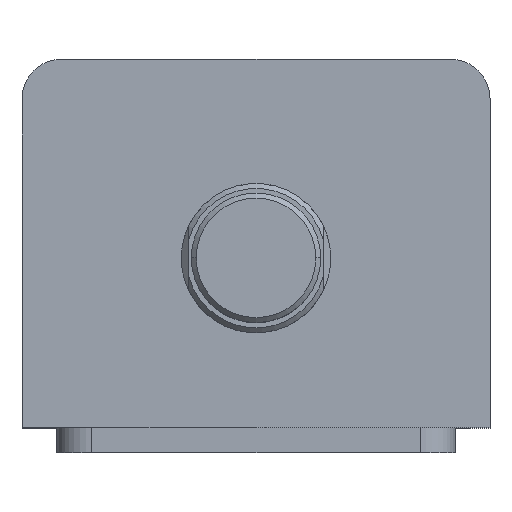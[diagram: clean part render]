
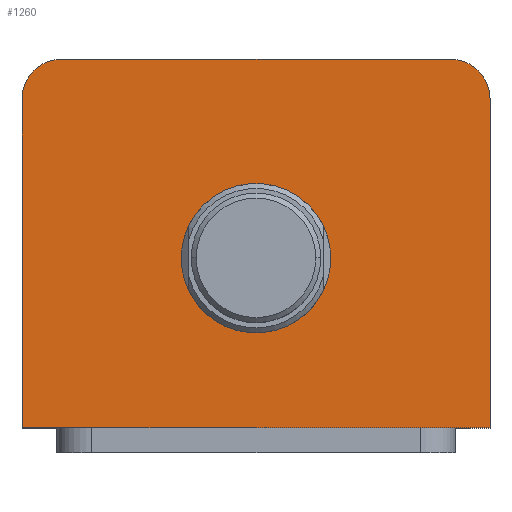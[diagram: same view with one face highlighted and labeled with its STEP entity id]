
A CAD part, top view. The second image highlights one B-rep face of the part: STEP entity #1260.
In plain terms, the highlighted planar face has unit normal (0, 0, 1).
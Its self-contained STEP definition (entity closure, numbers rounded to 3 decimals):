
#122 = CARTESIAN_POINT ( 'NONE',  ( -15., -3., 105. ) ) ;
#123 = CARTESIAN_POINT ( 'NONE',  ( 15., -3., 105. ) ) ;
#140 = CARTESIAN_POINT ( 'NONE',  ( -47., -37., 105. ) ) ;
#141 = CARTESIAN_POINT ( 'NONE',  ( 39., 37., 105. ) ) ;
#142 = CARTESIAN_POINT ( 'NONE',  ( -47., 29., 105. ) ) ;
#150 = CARTESIAN_POINT ( 'NONE',  ( -39., 37., 105. ) ) ;
#171 = CARTESIAN_POINT ( 'NONE',  ( 47., 29., 105. ) ) ;
#176 = CARTESIAN_POINT ( 'NONE',  ( 47., -37., 105. ) ) ;
#264 = CARTESIAN_POINT ( 'NONE',  ( 0., -3., 105. ) ) ;
#265 = DIRECTION ( 'NONE',  ( 0., 0., 1. ) ) ;
#266 = DIRECTION ( 'NONE',  ( 1., 0., 0. ) ) ;
#318 = CARTESIAN_POINT ( 'NONE',  ( 47., 37., 105. ) ) ;
#319 = DIRECTION ( 'NONE',  ( 0., 1., 0. ) ) ;
#370 = CARTESIAN_POINT ( 'NONE',  ( -47., 37., 105. ) ) ;
#371 = DIRECTION ( 'NONE',  ( -1., 0., 0. ) ) ;
#402 = CARTESIAN_POINT ( 'NONE',  ( 39., 29., 105. ) ) ;
#403 = DIRECTION ( 'NONE',  ( 0., 0., 1. ) ) ;
#404 = DIRECTION ( 'NONE',  ( 1., 0., 0. ) ) ;
#561 = DIRECTION ( 'NONE',  ( 0., 0., 1. ) ) ;
#562 = DIRECTION ( 'NONE',  ( 1., 0., 0. ) ) ;
#563 = PLANE ( 'NONE',  #1410 ) ;
#564 = CARTESIAN_POINT ( 'NONE',  ( 0., 0., 105. ) ) ;
#584 = EDGE_CURVE ( 'NONE', #2023, #2007, #2563, .T. ) ;
#590 = EDGE_CURVE ( 'NONE', #2003, #2050, #2555, .T. ) ;
#598 = EDGE_CURVE ( 'NONE', #2007, #2003, #2539, .T. ) ;
#607 = EDGE_CURVE ( 'NONE', #1846, #1845, #2522, .T. ) ;
#936 = CIRCLE ( 'NONE', #1462, 15. ) ;
#975 = LINE ( 'NONE', #318, #978 ) ;
#978 = VECTOR ( 'NONE', #319, 1000. ) ;
#1020 = LINE ( 'NONE', #370, #1023 ) ;
#1023 = VECTOR ( 'NONE', #371, 1000. ) ;
#1035 = CIRCLE ( 'NONE', #1482, 8. ) ;
#1185 = EDGE_CURVE ( 'NONE', #2044, #2016, #1035, .T. ) ;
#1260 = ADVANCED_FACE ( 'NONE', ( #2274, #2349 ), #563, .T. ) ;
#1306 = AXIS2_PLACEMENT_3D ( 'NONE', #2925, #3017, #2941 ) ;
#1311 = AXIS2_PLACEMENT_3D ( 'NONE', #2936, #2883, #2906 ) ;
#1410 = AXIS2_PLACEMENT_3D ( 'NONE', #564, #561, #562 ) ;
#1462 = AXIS2_PLACEMENT_3D ( 'NONE', #264, #265, #266 ) ;
#1482 = AXIS2_PLACEMENT_3D ( 'NONE', #402, #403, #404 ) ;
#1658 = ORIENTED_EDGE ( 'NONE', *, *, #607, .F. ) ;
#1659 = ORIENTED_EDGE ( 'NONE', *, *, #3068, .F. ) ;
#1660 = ORIENTED_EDGE ( 'NONE', *, *, #3116, .T. ) ;
#1661 = ORIENTED_EDGE ( 'NONE', *, *, #584, .T. ) ;
#1662 = ORIENTED_EDGE ( 'NONE', *, *, #598, .T. ) ;
#1663 = ORIENTED_EDGE ( 'NONE', *, *, #590, .T. ) ;
#1664 = ORIENTED_EDGE ( 'NONE', *, *, #3092, .T. ) ;
#1665 = ORIENTED_EDGE ( 'NONE', *, *, #1185, .T. ) ;
#1845 = VERTEX_POINT ( 'NONE', #122 ) ;
#1846 = VERTEX_POINT ( 'NONE', #123 ) ;
#1911 = EDGE_LOOP ( 'NONE', ( #1660, #1661, #1662, #1663, #1664, #1665 ) ) ;
#1927 = EDGE_LOOP ( 'NONE', ( #1658, #1659 ) ) ;
#2003 = VERTEX_POINT ( 'NONE', #140 ) ;
#2007 = VERTEX_POINT ( 'NONE', #142 ) ;
#2016 = VERTEX_POINT ( 'NONE', #141 ) ;
#2023 = VERTEX_POINT ( 'NONE', #150 ) ;
#2044 = VERTEX_POINT ( 'NONE', #171 ) ;
#2050 = VERTEX_POINT ( 'NONE', #176 ) ;
#2274 = FACE_BOUND ( 'NONE', #1927, .T. ) ;
#2349 = FACE_OUTER_BOUND ( 'NONE', #1911, .T. ) ;
#2522 = CIRCLE ( 'NONE', #1311, 15. ) ;
#2536 = VECTOR ( 'NONE', #2867, 1000. ) ;
#2539 = LINE ( 'NONE', #3014, #2536 ) ;
#2552 = VECTOR ( 'NONE', #2954, 1000. ) ;
#2555 = LINE ( 'NONE', #2939, #2552 ) ;
#2563 = CIRCLE ( 'NONE', #1306, 8. ) ;
#2867 = DIRECTION ( 'NONE',  ( 0., -1., 0. ) ) ;
#2883 = DIRECTION ( 'NONE',  ( 0., 0., 1. ) ) ;
#2906 = DIRECTION ( 'NONE',  ( 1., 0., 0. ) ) ;
#2925 = CARTESIAN_POINT ( 'NONE',  ( -39., 29., 105. ) ) ;
#2936 = CARTESIAN_POINT ( 'NONE',  ( 0., -3., 105. ) ) ;
#2939 = CARTESIAN_POINT ( 'NONE',  ( -47., -37., 105. ) ) ;
#2941 = DIRECTION ( 'NONE',  ( 1., 0., 0. ) ) ;
#2954 = DIRECTION ( 'NONE',  ( 1., 0., 0. ) ) ;
#3014 = CARTESIAN_POINT ( 'NONE',  ( -47., 37., 105. ) ) ;
#3017 = DIRECTION ( 'NONE',  ( 0., 0., 1. ) ) ;
#3068 = EDGE_CURVE ( 'NONE', #1845, #1846, #936, .T. ) ;
#3092 = EDGE_CURVE ( 'NONE', #2050, #2044, #975, .T. ) ;
#3116 = EDGE_CURVE ( 'NONE', #2016, #2023, #1020, .T. ) ;
